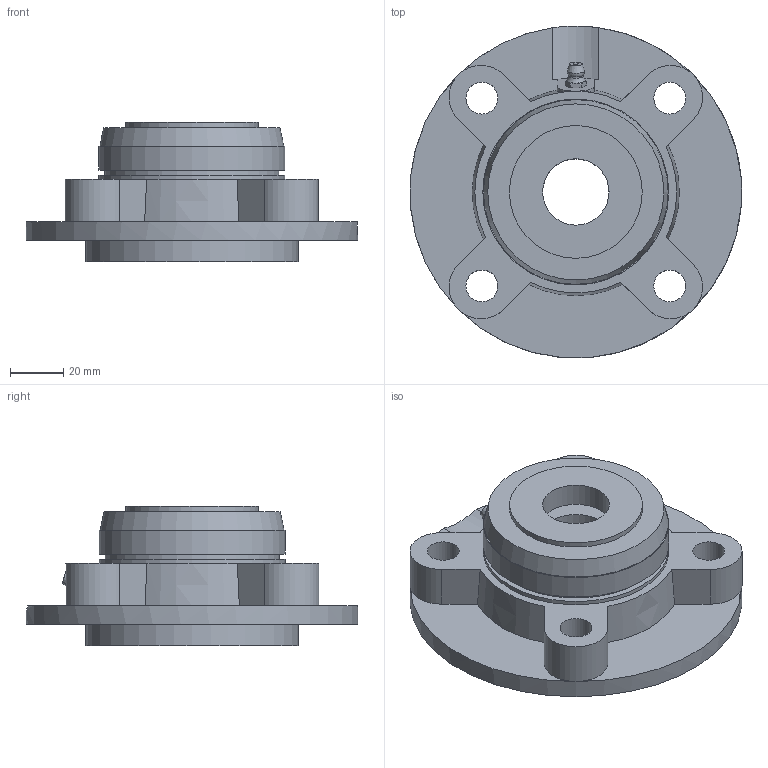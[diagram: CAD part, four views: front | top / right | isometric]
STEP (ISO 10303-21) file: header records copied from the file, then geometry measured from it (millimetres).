
FILE_DESCRIPTION((''),'2;1');
FILE_NAME('\\Ts-tgl068\j-cad-d-base\00.3DCADデータ作成フォルダ\02.フランジ形\UKFC200C(E)\UKFC206C+H.stp','2014-05-22T07:49:40',('btec_1106_2'),(''),'Autodesk Inventor 2012','Autodesk Inventor 2012','');
FILE_SCHEMA(('AUTOMOTIVE_DESIGN { 1 0 10303 214 1 1 1 1 }'));
Length unit declared in the file: millimetre
Products named in the file (5): UKFC200C+H; FC206C; UK206; GU1; 206CPA25
Assembly tree (4 placements, depth 2):
  UKFC200C+H
    FC206C
    UK206
    GU1
    206CPA25
Bounding box: 124.85 x 124.9 x 52.5 mm (x, y, z)
Volume: 203462.3 mm3; surface area: 73899.3 mm2
Topology: 4 solids, 4 shells, 208 faces, 525 edges, 341 vertices
Faces by surface type: plane 90, cylinder 55, cone 55, sphere 4, bspline 2, torus 2
Full cylindrical faces by diameter (mm): 5.359 x1, 6.35 x1, 12 x4, 25 x2, 40.5 x2, 50 x2, 64 x1, 65.6 x1, 68.4 x2, 70 x3, 80 x1, 125 x1
Entity records: 6160 total; most frequent: CARTESIAN_POINT 1405, ORIENTED_EDGE 964, DIRECTION 953, EDGE_CURVE 482, AXIS2_PLACEMENT_3D 398, VERTEX_POINT 328, EDGE_LOOP 273, FACE_OUTER_BOUND 208
